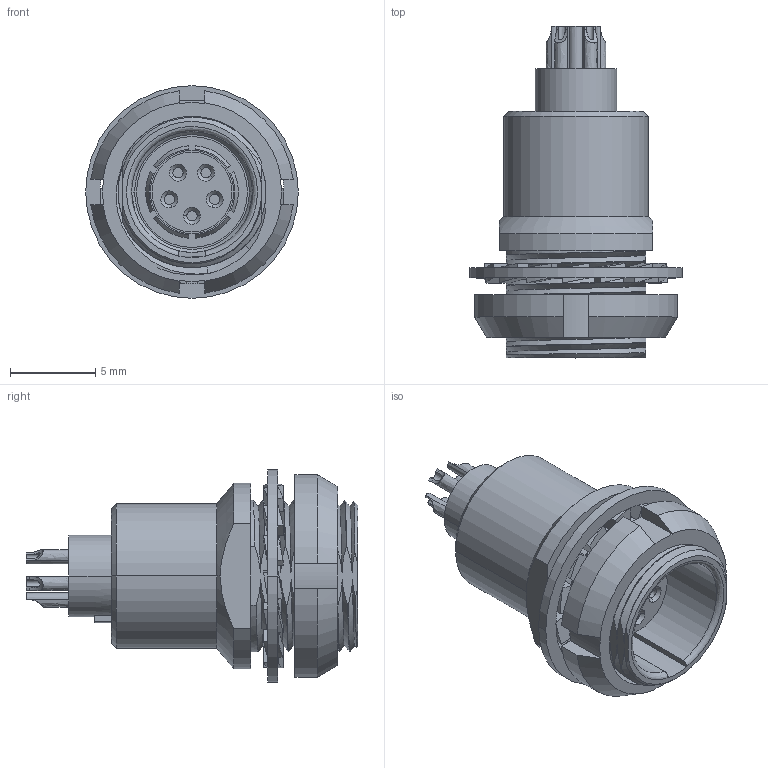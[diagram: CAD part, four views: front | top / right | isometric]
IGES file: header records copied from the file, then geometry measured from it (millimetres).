
Start section:  PTC IGES file: FLBB-05EEFS-GCP-001.igs
Global section: file name: FLBB-05EEFS-GCP-001.igs; native system: Creo Parametric by Parametric Technology Corporation; preprocessor: 2017170; author: L210037; organization: Unknown; date: 20211021.145405; units: millimetre
Bounding box: 12.5 x 19.51 x 12.5 mm (x, y, z)
Volume: 735.9 mm3; surface area: 1760.1 mm2
Topology: 2 solids, 2 shells, 416 faces, 1208 edges, 802 vertices
Faces by surface type: revolution 212, bspline 204
